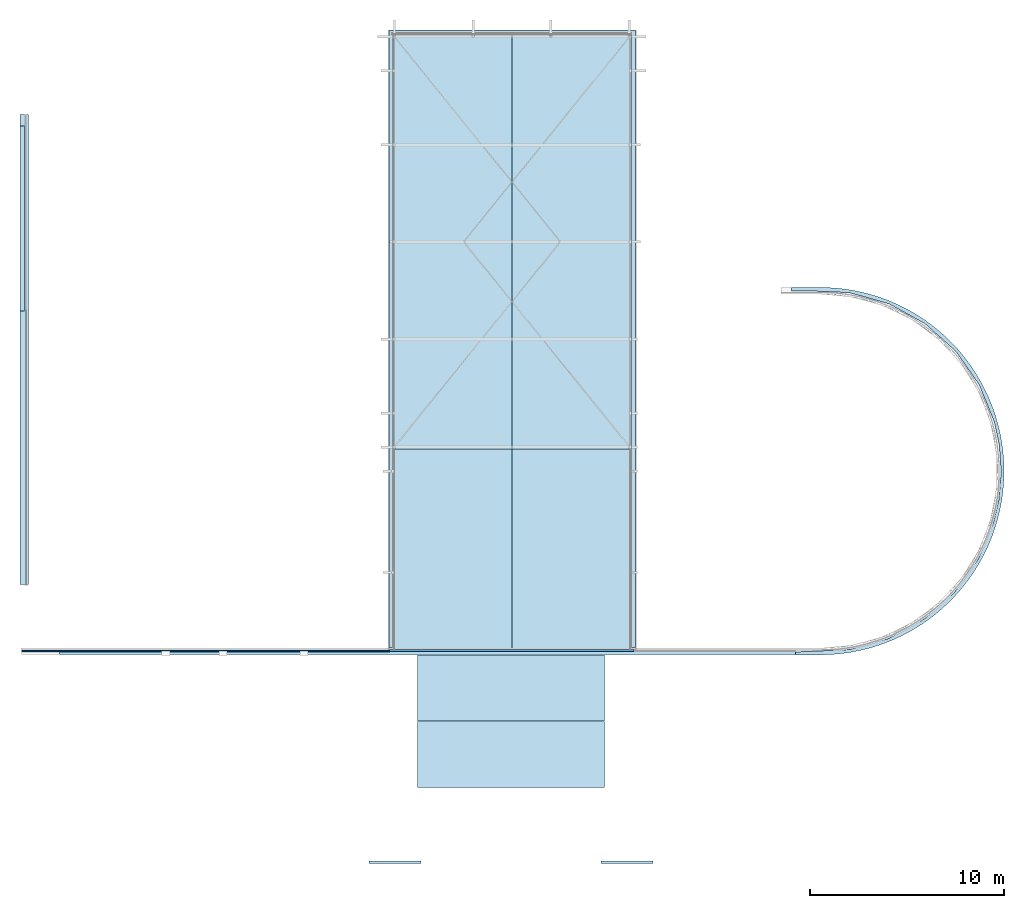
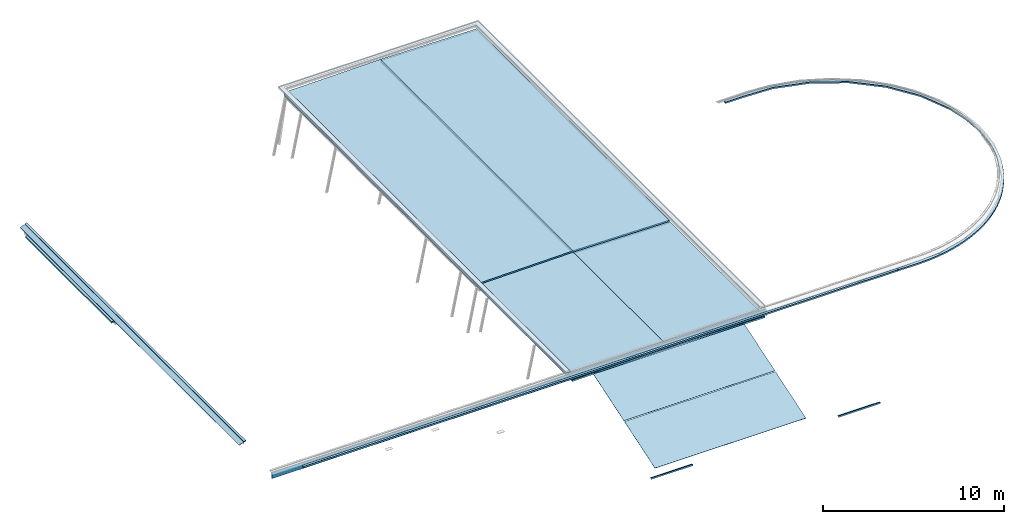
# One storey, part 2 of 5: 15 slabs, 2 walls, 1 opening, 8 elements without a shape of their own.
"""IFC2X3 building model written with IfcOpenShell, lengths in millimetres."""

from ifc_helpers import new_model, entity, si_unit, converted_unit, derived_unit, direction, frame, frame_2d, origin, place, context, subcontext, project, spatial, polyline, circle_curve, parameter, trimmed, segment, composite_curve, rectangle, outline, extrude, material, material_list, layer, layer_set, layer_usage, type_object, element, aggregate, save


model = new_model("IFC2X3")

# Units and contexts
model_context = context("Model", 3, precision=0.01, world=origin(), true_north=direction((6.12303176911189e-17, 1.0)))
body_context = subcontext(model_context, "Body", "Model", "MODEL_VIEW")
ifc_project = project(units=[si_unit("LENGTHUNIT", "METRE", prefix="MILLI"), si_unit("AREAUNIT", "SQUARE_METRE"), si_unit("VOLUMEUNIT", "CUBIC_METRE"), converted_unit("PLANEANGLEUNIT", "DEGREE", entity("IfcRatioMeasure", 0.0174532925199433), si_unit("PLANEANGLEUNIT", "RADIAN"), dimensions=[0, 0, 0, 0, 0, 0, 0]), si_unit("MASSUNIT", "GRAM", prefix="KILO"), derived_unit("MASSDENSITYUNIT", [(si_unit("MASSUNIT", "GRAM", prefix="KILO"), 1), (si_unit("LENGTHUNIT", "METRE"), -3)]), derived_unit("MOMENTOFINERTIAUNIT", [(si_unit("LENGTHUNIT", "METRE"), 4)]), si_unit("TIMEUNIT", "SECOND"), si_unit("FREQUENCYUNIT", "HERTZ"), si_unit("THERMODYNAMICTEMPERATUREUNIT", "DEGREE_CELSIUS"), derived_unit("THERMALTRANSMITTANCEUNIT", [(si_unit("MASSUNIT", "GRAM", prefix="KILO"), 1), (si_unit("THERMODYNAMICTEMPERATUREUNIT", "KELVIN"), -1), (si_unit("TIMEUNIT", "SECOND"), -3)]), derived_unit("VOLUMETRICFLOWRATEUNIT", [(si_unit("LENGTHUNIT", "METRE"), 3), (si_unit("TIMEUNIT", "SECOND"), -1)]), si_unit("ELECTRICCURRENTUNIT", "AMPERE"), si_unit("ELECTRICVOLTAGEUNIT", "VOLT"), si_unit("POWERUNIT", "WATT"), si_unit("FORCEUNIT", "NEWTON", prefix="KILO"), si_unit("ILLUMINANCEUNIT", "LUX"), si_unit("LUMINOUSFLUXUNIT", "LUMEN"), si_unit("LUMINOUSINTENSITYUNIT", "CANDELA"), derived_unit("USERDEFINED", [(si_unit("MASSUNIT", "GRAM", prefix="KILO"), -1), (si_unit("LENGTHUNIT", "METRE"), -2), (si_unit("TIMEUNIT", "SECOND"), 3), (si_unit("LUMINOUSFLUXUNIT", "LUMEN"), 1)]), derived_unit("LINEARVELOCITYUNIT", [(si_unit("LENGTHUNIT", "METRE"), 1), (si_unit("TIMEUNIT", "SECOND"), -1)]), si_unit("PRESSUREUNIT", "PASCAL"), derived_unit("USERDEFINED", [(si_unit("LENGTHUNIT", "METRE"), -2), (si_unit("MASSUNIT", "GRAM", prefix="KILO"), 1), (si_unit("TIMEUNIT", "SECOND"), -2)]), derived_unit("LINEARFORCEUNIT", [(si_unit("MASSUNIT", "GRAM", prefix="KILO"), 1), (si_unit("LENGTHUNIT", "METRE"), 1), (si_unit("TIMEUNIT", "SECOND"), -2), (si_unit("LENGTHUNIT", "METRE"), -1)]), derived_unit("PLANARFORCEUNIT", [(si_unit("MASSUNIT", "GRAM", prefix="KILO"), 1), (si_unit("LENGTHUNIT", "METRE"), 1), (si_unit("TIMEUNIT", "SECOND"), -2), (si_unit("LENGTHUNIT", "METRE"), -2)])], contexts=[model_context])

# Site, building, storey
site_placement = place(None, origin())
site = spatial("IfcSite", under=ifc_project, at=site_placement, Name="Default", CompositionType="ELEMENT")
building_placement = place(site_placement, origin())
building = spatial("IfcBuilding", under=site, at=building_placement, Name="-", CompositionType="ELEMENT")
storey_placement = place(building_placement, frame((0.0, 0.0, 6070.0)))
storey = spatial("IfcBuildingStorey", under=building, at=storey_placement, Name="02 tweede verdieping", CompositionType="ELEMENT", Elevation=6070.00000000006)

# Slabs
slab_1_placement = place(storey_placement, frame((28646.9917876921, 20761.3202504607, 3.52593752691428)))
slab_1 = element("IfcSlab", 1, at=slab_1_placement, inside=storey, Name="Floor:NLRS_23_FL_Dak gymzaal trampeziumplaat", ObjectType="Floor:NLRS_23_FL_Dak gymzaal trampeziumplaat", PredefinedType="NOTDEFINED")
ifc_material_1 = material(Name="NLRS_h3_staal_verzinkt")
slab_type_1 = type_object("IfcSlabType", Name="Floor:NLRS_23_FL_Dak gymzaal trampeziumplaat", PredefinedType="ROOF")
slab_2_placement = place(slab_1_placement, origin())
slab_2 = element("IfcSlab", 2, at=slab_2_placement, type_object=slab_type_1, material=ifc_material_1, Name="Floor:NLRS_23_FL_Dak gymzaal trampeziumplaat", ObjectType="Floor:NLRS_23_FL_Dak gymzaal trampeziumplaat", PredefinedType="NOTDEFINED", context=body_context, shape_type="SweptSolid", body=[
    extrude(rectangle(XDim=21276.5000000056, YDim=6135.59291206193, at=frame_2d((1.52340362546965e-11, 2.72848410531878e-12), x_axis=(0.0, 1.0))), frame((9202.50615923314, 10638.2500000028, 152.5), z_axis=(0.0138535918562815, 0.0, 0.999904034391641), x_axis=(0.999904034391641, 0.0, -0.0138535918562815)), (0.0138535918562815, 0.0, -0.999904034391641), 110.0),
])
slab_type_2 = type_object("IfcSlabType", Name="Floor:NLRS_23_FL_Dak gymzaal trampeziumplaat", PredefinedType="ROOF")
slab_3_placement = place(slab_1_placement, origin())
slab_3 = element("IfcSlab", 3, at=slab_3_placement, type_object=slab_type_2, material=ifc_material_1, Name="Floor:NLRS_23_FL_Dak gymzaal trampeziumplaat", ObjectType="Floor:NLRS_23_FL_Dak gymzaal trampeziumplaat", PredefinedType="NOTDEFINED", context=body_context, shape_type="SweptSolid", body=[
    extrude(rectangle(XDim=21276.5000000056, YDim=6135.59291206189, at=frame_2d((-1.52340362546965e-11, 2.72848410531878e-12), x_axis=(0.0, -1.0))), frame((3067.50205307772, 10638.2500000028, 152.5), z_axis=(-0.0138535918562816, 0.0, 0.999904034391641), x_axis=(0.999904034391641, 0.0, 0.0138535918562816)), (-0.0138535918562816, 0.0, -0.999904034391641), 110.0),
])
aggregate(slab_1, [slab_2, slab_3])

slab_4_placement = place(storey_placement, frame((28646.9917876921, 20761.3202504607, 113.525937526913)))
slab_4 = element("IfcSlab", 4, at=slab_4_placement, inside=storey, Name="Floor:NLRS_23_FL_Bestaand dak isolatie 90mm", ObjectType="Floor:NLRS_23_FL_Bestaand dak isolatie 90mm", PredefinedType="NOTDEFINED")
ifc_material_2 = material(Name="NLRS_m1_isolatie")
slab_type_3 = type_object("IfcSlabType", Name="Floor:NLRS_23_FL_Bestaand dak isolatie 90mm", PredefinedType="ROOF")
slab_5_placement = place(slab_4_placement, origin())
slab_5 = element("IfcSlab", 5, at=slab_5_placement, type_object=slab_type_3, material=ifc_material_2, Name="Floor:NLRS_23_FL_Bestaand dak isolatie 90mm", ObjectType="Floor:NLRS_23_FL_Bestaand dak isolatie 90mm", PredefinedType="NOTDEFINED", context=body_context, shape_type="SweptSolid", body=[
    extrude(rectangle(XDim=21276.5000000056, YDim=6135.59291206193, at=frame_2d((1.52340362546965e-11, 2.72848410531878e-12), x_axis=(0.0, 1.0))), frame((9202.50615923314, 10638.2500000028, 132.5), z_axis=(0.0138535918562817, 0.0, 0.999904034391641), x_axis=(0.999904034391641, 0.0, -0.0138535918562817)), (0.0138535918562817, 0.0, -0.999904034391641), 90.0000000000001),
])
slab_type_4 = type_object("IfcSlabType", Name="Floor:NLRS_23_FL_Bestaand dak isolatie 90mm", PredefinedType="ROOF")
slab_6_placement = place(slab_4_placement, origin())
slab_6 = element("IfcSlab", 6, at=slab_6_placement, type_object=slab_type_4, material=ifc_material_2, Name="Floor:NLRS_23_FL_Bestaand dak isolatie 90mm", ObjectType="Floor:NLRS_23_FL_Bestaand dak isolatie 90mm", PredefinedType="NOTDEFINED", context=body_context, shape_type="SweptSolid", body=[
    extrude(rectangle(XDim=21276.5000000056, YDim=6135.59291206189, at=frame_2d((-1.52340362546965e-11, 2.72848410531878e-12), x_axis=(0.0, -1.0))), frame((3067.50205307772, 10638.2500000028, 132.5), z_axis=(-0.0138535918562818, 0.0, 0.999904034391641), x_axis=(0.999904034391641, 0.0, 0.0138535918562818)), (-0.0138535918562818, 0.0, -0.999904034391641), 90.0000000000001),
])
aggregate(slab_4, [slab_5, slab_6])

# Covering, slabs
covering_placement = place(storey_placement, frame((28652.7822652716, 10240.074095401, 5.45451824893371)))
covering = element("IfcCovering", 7, at=covering_placement, inside=storey, Name="Basic Roof:NLRS_47_Trampeziumplaat 106R/750", ObjectType="Basic Roof:NLRS_47_Trampeziumplaat 106R/750", PredefinedType="NOTDEFINED")
slab_type_5 = type_object("IfcSlabType", Name="Basic Roof:NLRS_47_Trampeziumplaat 106R/750", PredefinedType="ROOF")
slab_7_placement = place(covering_placement, origin())
slab_7 = element("IfcSlab", 8, at=slab_7_placement, type_object=slab_type_5, Name="Basic Roof:NLRS_47_Trampeziumplaat 106R/750", ObjectType="Basic Roof:NLRS_47_Trampeziumplaat 106R/750", PredefinedType="NOTDEFINED", context=body_context, shape_type="SweptSolid", body=[
    extrude(rectangle(XDim=6129.8018787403, YDim=10521.2461550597, at=frame_2d((-1.86219040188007e-10, 1.36424205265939e-12), x_axis=(-1.0, 0.0))), frame((3064.60681428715, 5260.62307752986, 42.6011673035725), z_axis=(-0.0138535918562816, 0.0, 0.999904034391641), x_axis=(0.999904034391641, 0.0, 0.0138535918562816)), (0.0138535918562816, 0.0, 0.999904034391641), 108.010365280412),
])
slab_type_6 = type_object("IfcSlabType", Name="Basic Roof:NLRS_47_Trampeziumplaat 106R/750", PredefinedType="ROOF")
slab_8_placement = place(covering_placement, origin())
slab_8 = element("IfcSlab", 9, at=slab_8_placement, type_object=slab_type_6, Name="Basic Roof:NLRS_47_Trampeziumplaat 106R/750", ObjectType="Basic Roof:NLRS_47_Trampeziumplaat 106R/750", PredefinedType="NOTDEFINED", context=body_context, shape_type="SweptSolid", body=[
    extrude(rectangle(XDim=6140.00000000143, YDim=10521.2461550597, at=frame_2d((2.04636307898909e-12, -2.27373675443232e-12), x_axis=(-1.0, 0.0))), frame((9198.91901415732, 5260.62307752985, 42.5305269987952), z_axis=(0.0138535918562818, 0.0, 0.999904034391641), x_axis=(0.999904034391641, 0.0, -0.0138535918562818)), (-0.0138535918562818, 0.0, 0.999904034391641), 108.010365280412),
])
aggregate(covering, [slab_7, slab_8])

# Slabs
ifc_material_3 = material(Name="NLRS_n2_bitumen_dak bedekking")
ifc_layer_1 = layer(ifc_material_3, 6.0)
ifc_layer_set_1 = layer_set([ifc_layer_1], Name="Floor:NLRS_23_FL_Bitumen dakbedekking")
ifc_layer_usage_1 = layer_usage(ifc_layer_set_1, "AXIS3", "POSITIVE", 0.0)
slab_type_7 = type_object("IfcSlabType", Name="Floor:NLRS_23_FL_Bitumen dakbedekking", PredefinedType="FLOOR", material=ifc_layer_set_1)
slab_9_placement = place(storey_placement, origin())
element("IfcSlab", 10, at=slab_9_placement, inside=storey, type_object=slab_type_7, material=ifc_layer_usage_1, Name="Floor:NLRS_23_FL_Bitumen dakbedekking", ObjectType="Floor:NLRS_23_FL_Bitumen dakbedekking", PredefinedType="FLOOR", context=body_context, shape_type="SweptSolid", body=[
    extrude(outline(polyline([(-15822.4842662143, -6345.95187031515), (15911.7212600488, -6345.95187031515), (15911.7212600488, 6345.95187031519), (-15826.8731919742, 6345.95187031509), (-15826.8731919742, 6074.2604810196), (15737.6361981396, 6074.26048101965), (15737.6361981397, -6074.26048101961), (-15822.4842662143, -6074.26048101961), (-15822.4842662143, -6345.95187031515)])), frame((34797.1735418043, 26368.7738955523, 480.0), z_axis=(0.0, 0.0, -1.0), x_axis=(0.0, 1.0, 0.0)), (0.0, 0.0, 1.0), 5.99999999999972),
])
ifc_material_4 = material(Name="NLRS_n7_isolatie PIR_gen")
ifc_layer_2 = layer(ifc_material_4, 100.0)
ifc_layer_set_2 = layer_set([ifc_layer_2], Name="Floor:NLRS_23_FL_PIR isolatie 100mm")
ifc_layer_usage_2 = layer_usage(ifc_layer_set_2, "AXIS3", "POSITIVE", 0.0)
slab_type_8 = type_object("IfcSlabType", Name="Floor:NLRS_23_FL_PIR isolatie 100mm", PredefinedType="FLOOR", material=ifc_layer_set_2)
slab_10_placement = place(storey_placement, origin())
element("IfcSlab", 11, at=slab_10_placement, inside=storey, type_object=slab_type_8, material=ifc_layer_usage_2, Name="Floor:NLRS_23_FL_PIR isolatie 100mm", ObjectType="Floor:NLRS_23_FL_PIR isolatie 100mm", PredefinedType="FLOOR", context=body_context, shape_type="SweptSolid", body=[
    extrude(outline(composite_curve([segment(polyline([(8873.97564978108, -5594.77205943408), (9052.54001152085, -5594.77205943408)]), True, "CONTINUOUS"), segment(polyline([(9052.54001152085, -5594.77205943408), (9052.54001152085, -4113.08758115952)]), True, "CONTINUOUS"), segment(trimmed(circle_curve(frame_2d((-397.459983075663, -4113.08758115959), x_axis=(1.0, 0.0)), 9449.99999459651), [parameter(0.0)], [parameter(180.002822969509)], True, "PARAMETER"), True, "CONTINUOUS"), segment(polyline([(-9847.45996620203, -4113.55318372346), (-9847.45996620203, -5399.24507733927)]), True, "CONTINUOUS"), segment(polyline([(-9847.45996620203, -5399.24507733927), (-9703.39561734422, -5399.24507733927)]), True, "CONTINUOUS"), segment(polyline([(-9703.39561734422, -5399.24507733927), (-9579.38819280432, -2601.43537571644)]), True, "CONTINUOUS"), segment(polyline([(-9579.38819280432, -2601.43537571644), (-9011.61537350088, -593.041559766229)]), True, "CONTINUOUS"), segment(polyline([(-9011.61537350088, -593.041559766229), (-8010.77519229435, 1237.87310078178)]), True, "CONTINUOUS"), segment(polyline([(-8010.77519229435, 1237.87310078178), (-6628.86665585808, 2798.18924128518)]), True, "CONTINUOUS"), segment(polyline([(-6628.86665585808, 2798.18924128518), (-4942.51913351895, 4007.19483919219)]), True, "CONTINUOUS"), segment(polyline([(-4942.51913351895, 4007.19483919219), (-3067.6739749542, 4790.01999350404)]), True, "CONTINUOUS"), segment(polyline([(-3067.6739749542, 4790.01999350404), (-1875.19989897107, 5073.02135772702)]), True, "CONTINUOUS"), segment(polyline([(-1875.19989897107, 5073.02135772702), (-451.094785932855, 5192.75212264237)]), True, "CONTINUOUS"), segment(polyline([(-451.094785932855, 5192.75212264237), (958.771837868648, 5093.97279502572)]), True, "CONTINUOUS"), segment(polyline([(958.771837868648, 5093.97279502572), (2134.42484181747, 4841.52709086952)]), True, "CONTINUOUS"), segment(polyline([(2134.42484181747, 4841.52709086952), (4051.36145559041, 4060.32386219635)]), True, "CONTINUOUS"), segment(polyline([(4051.36145559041, 4060.32386219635), (5779.17562570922, 2847.16093836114)]), True, "CONTINUOUS"), segment(polyline([(5779.17562570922, 2847.16093836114), (7190.30837530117, 1274.01142467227)]), True, "CONTINUOUS"), segment(polyline([(7190.30837530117, 1274.01142467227), (8212.18338832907, -582.056161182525)]), True, "CONTINUOUS"), segment(polyline([(8212.18338832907, -582.056161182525), (8786.19191036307, -2611.97797810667)]), True, "CONTINUOUS"), segment(polyline([(8786.19191036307, -2611.97797810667), (8873.97564978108, -4612.860653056)]), True, "CONTINUOUS"), segment(polyline([(8873.97564978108, -4612.860653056), (8873.97564978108, -5594.77205943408)]), True, "CONTINUOUS")], self_intersect=False)), frame((54759.3924495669, 20013.5197127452, 332.199999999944), z_axis=(0.0, 0.0, -1.0), x_axis=(0.0, 1.0, 0.0)), (0.0, 0.0, 1.0), 100.0),
])
ifc_layer_usage_3 = layer_usage(ifc_layer_set_2, "AXIS3", "POSITIVE", 0.0)
slab_type_9 = type_object("IfcSlabType", Name="Floor:NLRS_23_FL_PIR isolatie 100mm", PredefinedType="FLOOR", material=ifc_layer_set_2)
slab_11_placement = place(storey_placement, origin())
element("IfcSlab", 12, at=slab_11_placement, inside=storey, type_object=slab_type_9, material=ifc_layer_usage_3, Name="Floor:NLRS_23_FL_PIR isolatie 100mm", ObjectType="Floor:NLRS_23_FL_PIR isolatie 100mm", PredefinedType="FLOOR", context=body_context, shape_type="SweptSolid", body=[
    extrude(rectangle(XDim=150.926706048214, YDim=37853.6369434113, at=frame_2d((-3.03188585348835e-11, 0.0), x_axis=(1.0, 0.0))), frame((30433.328900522, 10248.660742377, 332.199999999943), z_axis=(0.0, 0.0, -1.0), x_axis=(0.0, 1.0, 0.0)), (0.0, 0.0, 1.0), 100.0),
])
ifc_layer_usage_4 = layer_usage(ifc_layer_set_2, "AXIS3", "POSITIVE", 0.0)
slab_type_10 = type_object("IfcSlabType", Name="Floor:NLRS_23_FL_PIR isolatie 100mm", PredefinedType="FLOOR", material=ifc_layer_set_2)
slab_12_placement = place(storey_placement, origin())
element("IfcSlab", 13, at=slab_12_placement, inside=storey, type_object=slab_type_10, material=ifc_layer_usage_4, Name="Floor:NLRS_23_FL_PIR isolatie 100mm", ObjectType="Floor:NLRS_23_FL_PIR isolatie 100mm", PredefinedType="FLOOR", context=body_context, shape_type="SweptSolid", body=[
    extrude(rectangle(XDim=9521.50000000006, YDim=241.459296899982, at=frame_2d((0.0, 5.40012479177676e-13), x_axis=(1.0, 0.0))), frame((9587.27035154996, 32610.2365767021, 62.7237540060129), z_axis=(0.0, 0.0, -1.0), x_axis=(0.0, 1.0, 0.0)), (0.0, 0.0, 1.0), 100.0),
])

# Roof, slab
roof_1_placement = place(storey_placement, frame((29928.8156197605, 3343.63460400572, -2102.23130599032)))
roof_1 = element("IfcRoof", 14, at=roof_1_placement, inside=storey, Name="Basic Roof:NLRS_27_Plafond bekleding mf zaal", ObjectType="Basic Roof:NLRS_27_Plafond bekleding mf zaal", ShapeType="NOTDEFINED")
slab_type_11 = type_object("IfcSlabType", Name="Basic Roof:NLRS_27_Plafond bekleding mf zaal", PredefinedType="ROOF")
slab_13_placement = place(roof_1_placement, origin())
slab_13 = element("IfcSlab", 15, at=slab_13_placement, type_object=slab_type_11, Name="Basic Roof:NLRS_27_Plafond bekleding mf zaal", ObjectType="Basic Roof:NLRS_27_Plafond bekleding mf zaal", PredefinedType="NOTDEFINED", context=body_context, shape_type="SweptSolid", body=[
    extrude(rectangle(XDim=9623.56919499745, YDim=3555.0, at=frame_2d((0.0, 1.13686837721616e-13), x_axis=(-1.0, 0.0))), frame((4811.78459749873, 1690.50295771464, 549.277707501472), z_axis=(0.0, -0.309016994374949, 0.951056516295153), x_axis=(1.0, 0.0, 0.0)), (0.0, 0.309016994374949, 0.951056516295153), 12.6175466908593),
])
aggregate(roof_1, [slab_13])

roof_2_placement = place(storey_placement, frame((29928.8156197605, 6770.14154985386, -988.891710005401)))
roof_2 = element("IfcRoof", 16, at=roof_2_placement, inside=storey, Name="Basic Roof:NLRS_27_Plafond bekleding mf zaal", ObjectType="Basic Roof:NLRS_27_Plafond bekleding mf zaal", ShapeType="NOTDEFINED")
slab_type_12 = type_object("IfcSlabType", Name="Basic Roof:NLRS_27_Plafond bekleding mf zaal", PredefinedType="ROOF")
slab_14_placement = place(roof_2_placement, origin())
slab_14 = element("IfcSlab", 17, at=slab_14_placement, type_object=slab_type_12, Name="Basic Roof:NLRS_27_Plafond bekleding mf zaal", ObjectType="Basic Roof:NLRS_27_Plafond bekleding mf zaal", PredefinedType="NOTDEFINED", context=body_context, shape_type="SweptSolid", body=[
    extrude(rectangle(XDim=9623.56919499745, YDim=3553.03884494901, at=frame_2d((0.0, 0.0), x_axis=(-1.0, 0.0))), frame((4811.78459749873, 1689.57037306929, 548.974692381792), z_axis=(0.0, -0.309016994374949, 0.951056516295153), x_axis=(1.0, 0.0, 0.0)), (0.0, 0.309016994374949, 0.951056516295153), 12.6175466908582),
])
aggregate(roof_2, [slab_14])

ifc_material_5 = material(Name="AL_Multiplex")
ifc_material_6 = material(Name="AL_Aluminium")
ifc_material_7 = material(Name="h7_zink zwart")
ifc_material_8 = material(Name="AL_Aluminium zwart 2")
ifc_material_list_1 = material_list([ifc_material_5, ifc_material_6, ifc_material_7, ifc_material_8])
roof_3_placement = place(storey_placement, origin())
roof_3 = element("IfcRoof", 18, at=roof_3_placement, inside=storey, material=ifc_material_list_1, Name="Dakrand 1:Dakrand 3", ObjectType="Dakrand 1:Dakrand 3", ShapeType="NOTDEFINED")
ifc_material_list_2 = material_list([ifc_material_5, ifc_material_6, ifc_material_7, ifc_material_8])
slab_type_13 = type_object("IfcSlabType", Name="Dakrand 1:Dakrand 3", PredefinedType="ROOF")
slab_15_placement = place(storey_placement, origin())
slab_15 = element("IfcSlab", 19, at=slab_15_placement, type_object=slab_type_13, material=ifc_material_list_2, Name="Dakrand 1:Dakrand 3:1", ObjectType="Dakrand 1:Dakrand 3", PredefinedType="ROOF", context=body_context, shape_type="SweptSolid", body=[
    extrude(outline(polyline([(-71.8868051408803, -192.120224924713), (-52.9604851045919, -192.120224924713), (70.9831537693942, 189.339071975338), (53.8641364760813, 194.901377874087), (-71.8868051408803, -192.120224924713)])), frame((9658.66092802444, 13778.9485315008, 347.123350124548), z_axis=(0.0, 1.0, 0.0), x_axis=(0.0, 0.0, 1.0)), (0.0, 0.0, 1.0), 24176.8352083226),
    extrude(outline(polyline([(-61.5009343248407, -40.1786715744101), (-60.5009343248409, -40.1786715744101), (-60.5009343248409, 43.0726652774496), (58.1744549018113, 4.51269385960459), (62.9711283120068, -8.66605802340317), (63.9108209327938, -8.32403788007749), (58.9473331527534, 5.31303271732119), (-61.5009343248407, 44.44904719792), (-61.5009343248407, -40.1786715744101)])), frame((9828.78557548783, 13778.9485315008, 428.404203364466), z_axis=(0.0, 1.0, 0.0), x_axis=(-1.0, 0.0, 0.0)), (0.0, 0.0, 1.0), 24176.8352083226),
    extrude(rectangle(XDim=38.0000000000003, YDim=57.9999999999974, at=frame_2d((8.5087492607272e-13, -8.63309423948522e-13), x_axis=(1.0, 0.0))), frame((9814.5480381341, 13778.9485315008, 427.215084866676), z_axis=(0.0, 1.0, 0.0), x_axis=(-0.309016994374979, 0.0, 0.951056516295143)), (0.0, 0.0, 1.0), 24176.8352083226),
    extrude(outline(composite_curve([segment(polyline([(3.81781453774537, -13.494222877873), (5.74750578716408, -13.4942228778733)]), True, "CONTINUOUS"), segment(polyline([(5.74750578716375, -13.4942228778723), (5.42258609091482, -12.4942228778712)]), True, "CONTINUOUS"), segment(polyline([(5.42258609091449, -12.4942228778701), (3.81781453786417, -12.4942228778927)]), True, "CONTINUOUS"), segment(trimmed(circle_curve(frame_2d((3.81781453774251, -3.88577074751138), x_axis=(0.9510565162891, 0.309016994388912)), 8.60845213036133), [parameter(161.999999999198)], [parameter(251.999999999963)], True, "PARAMETER"), False, "CONTINUOUS"), segment(polyline([(-4.79063759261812, -3.88577074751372), (-4.79063759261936, 10.6498165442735)]), True, "CONTINUOUS"), segment(trimmed(circle_curve(frame_2d((-2.79063759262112, 10.6498165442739), x_axis=(0.9510565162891, 0.309016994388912)), 1.99999999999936), [parameter(9.93344924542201)], [parameter(161.999999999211)], True, "PARAMETER"), False, "CONTINUOUS"), segment(polyline([(-1.02365298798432, 11.5867078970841), (1.31857539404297, 7.16924638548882)]), True, "CONTINUOUS"), segment(polyline([(1.31857539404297, 7.16924638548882), (2.20206769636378, 7.63769206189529)]), True, "CONTINUOUS"), segment(polyline([(2.20206769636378, 7.63769206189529), (-0.140160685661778, 12.0551535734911)]), True, "CONTINUOUS"), segment(trimmed(circle_curve(frame_2d((-2.79063759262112, 10.6498165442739), x_axis=(0.9510565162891, 0.309016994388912)), 3.00000000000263), [parameter(9.93344924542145)], [parameter(161.999999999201)], True, "PARAMETER"), True, "CONTINUOUS"), segment(polyline([(-5.79063759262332, 10.6498165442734), (-5.79063759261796, -3.88577074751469)]), True, "CONTINUOUS"), segment(trimmed(circle_curve(frame_2d((3.81781453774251, -3.88577074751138), x_axis=(0.9510565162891, 0.309016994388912)), 9.6084521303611), [parameter(161.99999999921)], [parameter(251.99999999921)], True, "PARAMETER"), True, "CONTINUOUS")], self_intersect=False)), frame((9779.92225680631, 13778.9485315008, 420.640162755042), z_axis=(0.0, 1.0, 0.0), x_axis=(-0.951056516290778, 0.0, -0.309016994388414)), (0.0, 0.0, 1.0), 24176.8352083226),
    extrude(outline(composite_curve([segment(polyline([(-85.555070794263, -28.4233829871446), (-56.6032911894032, 60.681032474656)]), True, "CONTINUOUS"), segment(polyline([(-56.6032911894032, 60.681032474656), (-47.7901300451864, 47.1099544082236)]), True, "CONTINUOUS"), segment(polyline([(-47.7901300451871, 47.1099544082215), (-46.8942156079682, 47.5664456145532)]), True, "CONTINUOUS"), segment(polyline([(-46.8942156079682, 47.5664456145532), (-56.9064801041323, 62.98398092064)]), True, "CONTINUOUS"), segment(polyline([(-56.9064801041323, 62.98398092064), (-86.9314527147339, -29.4233829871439)]), True, "CONTINUOUS"), segment(polyline([(-86.9314527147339, -29.4233829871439), (43.443579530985, -29.4233829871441)]), True, "CONTINUOUS"), segment(polyline([(43.443579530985, -29.4233829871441), (52.9787798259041, -17.2188831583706)]), True, "CONTINUOUS"), segment(trimmed(circle_curve(frame_2d((51.0087529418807, -15.6797294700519), x_axis=(0.951056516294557, -0.309016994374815)), 2.50000000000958), [parameter(340.000000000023)], [parameter(160.0)], True, "PARAMETER"), True, "CONTINUOUS"), segment(polyline([(49.0387260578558, -14.1405757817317), (44.7290957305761, -19.6566510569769)]), True, "CONTINUOUS"), segment(polyline([(44.7290957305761, -19.6566510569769), (45.5171064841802, -20.2723125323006)]), True, "CONTINUOUS"), segment(polyline([(45.5171064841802, -20.2723125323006), (49.826736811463, -14.7562372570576)]), True, "CONTINUOUS"), segment(trimmed(circle_curve(frame_2d((51.0087529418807, -15.6797294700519), x_axis=(0.951056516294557, -0.309016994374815)), 1.50000000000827), [parameter(340.000000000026)], [parameter(159.999999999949)], True, "PARAMETER"), False, "CONTINUOUS"), segment(polyline([(52.1907690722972, -16.6032216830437), (42.955846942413, -28.4233829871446)]), True, "CONTINUOUS"), segment(polyline([(42.955846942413, -28.4233829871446), (-85.555070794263, -28.4233829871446)]), True, "CONTINUOUS")], self_intersect=False)), frame((9818.70211061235, 13778.9485315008, 420.759418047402), z_axis=(0.0, -1.0, 0.0), x_axis=(-0.951056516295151, 0.0, -0.309016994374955)), (0.0, 0.0, -1.0), 24176.8352083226),
])
aggregate(roof_3, [slab_15])

ifc_material_9 = material(Name="NLRS_i2_hout naaldhout_gen")
ifc_material_list_3 = material_list([ifc_material_9, ifc_material_8])
roof_4_placement = place(storey_placement, origin())
roof_4 = element("IfcRoof", 20, at=roof_4_placement, inside=storey, material=ifc_material_list_3, Name="Dakrand 2:Dakrand 3", ObjectType="Dakrand 2:Dakrand 3", ShapeType="NOTDEFINED")
ifc_material_list_4 = material_list([ifc_material_9, ifc_material_8])
slab_type_14 = type_object("IfcSlabType", Name="Dakrand 2:Dakrand 3", PredefinedType="ROOF")
slab_16_placement = place(storey_placement, origin())
slab_16 = element("IfcSlab", 21, at=slab_16_placement, type_object=slab_type_14, material=ifc_material_list_4, Name="Dakrand 2:Dakrand 3:1", ObjectType="Dakrand 2:Dakrand 3", PredefinedType="ROOF", context=body_context, shape_type="SweptSolid", body=[
    extrude(rectangle(XDim=37.9999999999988, YDim=58.0, at=frame_2d((-3.01980662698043e-14, 9.59232693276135e-14), x_axis=(1.0, 0.0))), frame((39378.2922973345, -482.636192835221, 441.673935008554), z_axis=(1.0, 0.0, 0.0), x_axis=(0.0, -0.309016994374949, -0.951056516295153)), (0.0, 0.0, 1.0), 2638.49361967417),
    extrude(outline(polyline([(-3.17045009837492, -12.4743832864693), (1.82954990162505, -12.4743832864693), (1.82954990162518, -11.4743832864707), (-2.17045009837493, -11.4743832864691), (-2.17045009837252, 13.4290731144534), (3.19669009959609, 9.08284867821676), (3.82601049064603, 9.85999463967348), (-3.17045009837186, 15.5256167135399), (-3.17045009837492, -12.4743832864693)])), frame((39367.2559977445, -450.966633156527, 435.037054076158), z_axis=(1.0, 0.0, 0.0), x_axis=(0.0, 0.951056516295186, -0.309016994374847)), (0.0, 0.0, 1.0), 2660.05983852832),
    extrude(outline(polyline([(-60.9092696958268, -67.9091588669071), (37.5994868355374, -67.9091588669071), (27.9576726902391, -56.4184922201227), (27.1916282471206, -57.0612798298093), (35.454979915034, -66.9091588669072), (-59.5328877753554, -66.9091588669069), (-16.6873253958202, 64.9559231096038), (7.3583765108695, 64.9559231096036), (4.48416542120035, 60.9999109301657), (5.1912722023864, 60.292804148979), (9.30576896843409, 65.9559231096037), (-17.4138679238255, 65.9559231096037), (-60.9092696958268, -67.9091588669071)])), frame((39367.2559977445, -506.944705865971, 434.909185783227), z_axis=(1.0, 0.0, 0.0), x_axis=(0.0, 0.0, -1.0)), (0.0, 0.0, 1.0), 2660.05983852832),
])
aggregate(roof_4, [slab_16])

ifc_material_list_5 = material_list([ifc_material_9, ifc_material_8])
roof_5_placement = place(storey_placement, origin())
roof_5 = element("IfcRoof", 22, at=roof_5_placement, inside=storey, material=ifc_material_list_5, Name="Dakrand 4:Dakrand 3", ObjectType="Dakrand 4:Dakrand 3", ShapeType="NOTDEFINED")
ifc_material_list_6 = material_list([ifc_material_9, ifc_material_8])
slab_type_15 = type_object("IfcSlabType", Name="Dakrand 4:Dakrand 3", PredefinedType="ROOF")
slab_17_placement = place(storey_placement, origin())
slab_17 = element("IfcSlab", 23, at=slab_17_placement, type_object=slab_type_15, material=ifc_material_list_6, Name="Dakrand 4:Dakrand 3:1", ObjectType="Dakrand 4:Dakrand 3", PredefinedType="ROOF", context=body_context, shape_type="SweptSolid", body=[
    extrude(rectangle(XDim=37.9999999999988, YDim=58.0, at=frame_2d((9.78772618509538e-13, 4.9382720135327e-13), x_axis=(1.0, 0.0))), frame((27445.8526052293, -482.63619283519, 441.673935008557), z_axis=(1.0, 0.0, 0.0), x_axis=(0.0, -0.30901699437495, -0.951056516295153)), (0.0, 0.0, 1.0), 2638.49361967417),
    extrude(outline(polyline([(-3.17045009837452, -12.4743832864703), (1.82954990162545, -12.4743832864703), (1.82954990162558, -11.4743832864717), (-2.17045009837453, -11.4743832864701), (-2.17045009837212, 13.4290731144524), (3.19669009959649, 9.08284867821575), (3.82601049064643, 9.85999463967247), (-3.17045009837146, 15.5256167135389), (-3.17045009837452, -12.4743832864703)])), frame((27435.3462249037, -450.966633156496, 435.037054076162), z_axis=(1.0, 0.0, 0.0), x_axis=(0.0, 0.951056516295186, -0.309016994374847)), (0.0, 0.0, 1.0), 2659.52991926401),
    extrude(outline(polyline([(-60.9092696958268, -67.9091588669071), (37.5994868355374, -67.9091588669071), (27.9576726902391, -56.4184922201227), (27.1916282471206, -57.0612798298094), (35.454979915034, -66.9091588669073), (-59.5328877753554, -66.909158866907), (-16.6873253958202, 64.9559231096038), (7.3583765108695, 64.9559231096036), (4.48416542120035, 60.9999109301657), (5.1912722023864, 60.2928041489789), (9.30576896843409, 65.9559231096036), (-17.4138679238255, 65.9559231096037), (-60.9092696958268, -67.9091588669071)])), frame((27435.3462249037, -506.94470586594, 434.909185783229), z_axis=(1.0, 0.0, 0.0), x_axis=(0.0, 0.0, -1.0)), (0.0, 0.0, 1.0), 2659.52991926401),
])
aggregate(roof_5, [slab_17])

# Wall, opening
ifc_material_10 = material(Name="NLRS_i4_hout_multiplex")
ifc_layer_3 = layer(ifc_material_10, 9.0)
ifc_layer_4 = layer(ifc_material_2, 89.0)
ifc_layer_5 = layer(ifc_material_10, 9.0)
ifc_layer_set_3 = layer_set([ifc_layer_3, ifc_layer_4, ifc_layer_5], Name="Basic Wall:NLRS_21_WA_HSB-wand_110mm")
ifc_layer_usage_5 = layer_usage(ifc_layer_set_3, "AXIS2", "NEGATIVE", 53.5)
wall_type_1 = type_object("IfcWallType", Name="Basic Wall:NLRS_21_WA_HSB-wand_110mm", PredefinedType="STANDARD", material=ifc_layer_set_3)
wall_1_placement = place(storey_placement, frame((41063.1883944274, 10377.624095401, 45.0), z_axis=(0.0, 0.0, 1.0), x_axis=(-1.0, 0.0, 0.0)))
wall_1 = element("IfcWallStandardCase", 24, at=wall_1_placement, inside=storey, type_object=wall_type_1, material=ifc_layer_usage_5, Name="Basic Wall:NLRS_21_WA_HSB-wand_110mm", ObjectType="Basic Wall:NLRS_21_WA_HSB-wand_110mm", context=body_context, shape_type="SweptSolid", body=[
    extrude(rectangle(XDim=12580.0, YDim=107.000000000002, at=frame_2d((6290.0, -7.105427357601e-15), x_axis=(-1.0, 0.0))), origin(), (0.0, 0.0, 1.0), 455.000000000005),
])
opening_placement = place(wall_1_placement, origin())
element("IfcOpeningElement", 25, at=opening_placement, cuts=wall_1, Name="Basic Wall:NLRS_21_WA_HSB-wand_110mm", ObjectType="Opening", context=body_context, shape_type="SweptSolid", body=[
    extrude(outline(polyline([(-6257.27847838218, -57.4324182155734), (6259.26462152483, -57.4324182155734), (6259.26462152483, 9.3168639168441), (-3.97228628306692, 96.0935193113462), (-6257.27847838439, 9.45445320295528), (-6257.27847838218, -57.4324182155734)])), frame((6285.16478686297, 53.5000000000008, 57.4324182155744), z_axis=(0.0, -1.0, 0.0), x_axis=(1.0, 0.0, 0.0)), (0.0, 0.0, 1.0), 107.0),
])

# Wall
ifc_layer_6 = layer(ifc_material_10, 10.0)
ifc_layer_7 = layer(ifc_material_2, 58.0)
ifc_layer_8 = layer(ifc_material_10, 10.0)
ifc_layer_set_4 = layer_set([ifc_layer_6, ifc_layer_7, ifc_layer_8], Name="Basic Wall:NLRS_21_WA_HSB-wand_78mm")
ifc_layer_usage_6 = layer_usage(ifc_layer_set_4, "AXIS2", "NEGATIVE", 39.0)
wall_type_2 = type_object("IfcWallType", Name="Basic Wall:NLRS_21_WA_HSB-wand_78mm", PredefinedType="STANDARD", material=ifc_layer_set_4)
wall_2_placement = place(storey_placement, frame((28483.1883944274, 10363.124095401, 93.2999999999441), z_axis=(0.0, 0.0, 1.0), x_axis=(-1.0, 0.0, 0.0)))
element("IfcWallStandardCase", 26, at=wall_2_placement, inside=storey, type_object=wall_type_2, material=ifc_layer_usage_6, Name="Basic Wall:NLRS_21_WA_HSB-wand_78mm", ObjectType="Basic Wall:NLRS_21_WA_HSB-wand_78mm", context=body_context, shape_type="SweptSolid", body=[
    extrude(rectangle(XDim=18910.0, YDim=77.9999999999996, at=frame_2d((9455.0, -4.2632564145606e-14), x_axis=(-1.0, 0.0))), origin(), (0.0, 0.0, 1.0), 406.700000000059),
])

save(model, "model.ifc")
